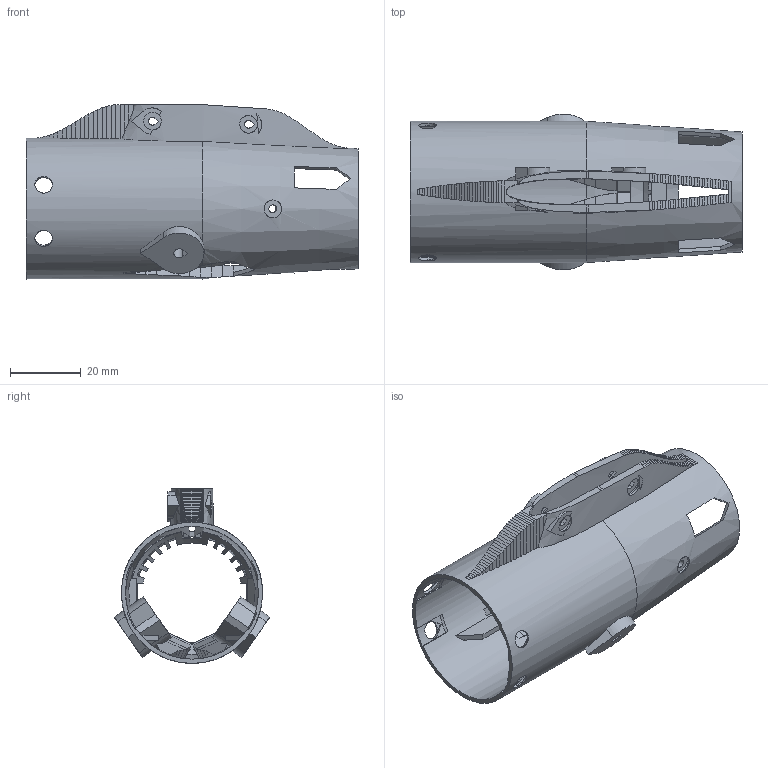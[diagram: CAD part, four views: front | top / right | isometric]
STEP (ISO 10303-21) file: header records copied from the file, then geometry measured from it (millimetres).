
FILE_DESCRIPTION(('SkyG Speed 90B - revision C6B-22 - 2026-10-16','F3-tail-module'),'2;1');
FILE_NAME('F3-tail-module_C6B-22','2026-10-16T19:15:20',('Author'),( 'Open CASCADE'),'Open CASCADE STEP processor 7.9','Open CASCADE 7.9' ,'Unknown');
FILE_SCHEMA(('AUTOMOTIVE_DESIGN { 1 0 10303 214 1 1 1 1 }'));
Products named in the file (1): F3-tail-module C6B-22
Bounding box: 94 x 44.07 x 49.5 mm (x, y, z)
Volume: 19758.1 mm3; surface area: 26596.3 mm2
Topology: 1 solids, 1 shells, 607 faces, 1822 edges, 1218 vertices
Faces by surface type: plane 457, cylinder 99, bspline 39, cone 12
Full cylindrical faces by diameter (mm): 2.2 x2, 37.6 x1, 40 x1
Entity records: 63465 total; most frequent: CARTESIAN_POINT 31374, DIRECTION 4695, ORIENTED_EDGE 3644, PCURVE 3644, DEFINITIONAL_REPRESENTATION 3644, LINE 2399, VECTOR 2399, B_SPLINE_CURVE_WITH_KNOTS 2269
